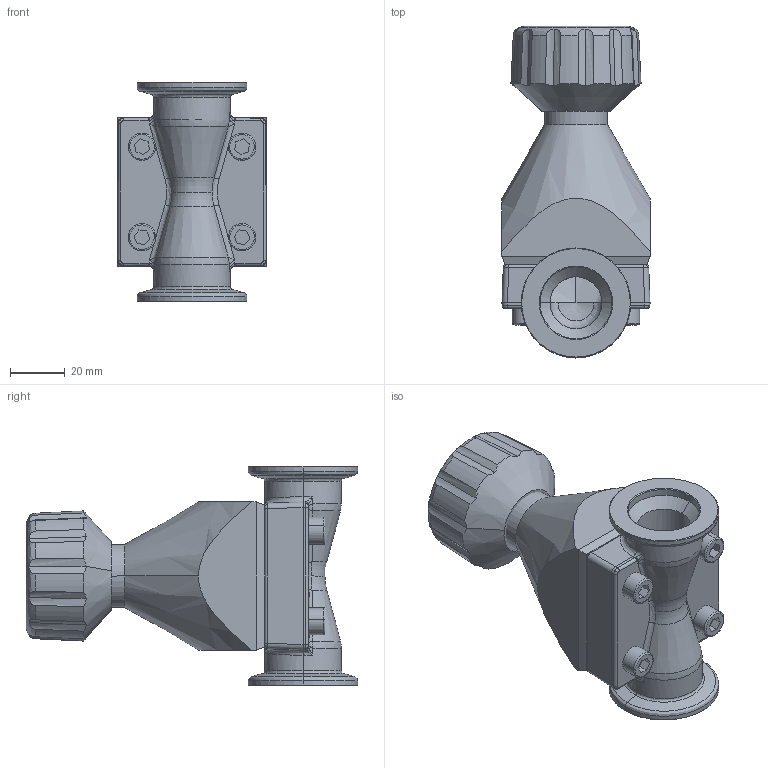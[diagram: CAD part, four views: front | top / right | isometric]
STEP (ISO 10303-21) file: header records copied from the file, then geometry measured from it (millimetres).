
FILE_DESCRIPTION(/* description */ (''),/* implementation_level */ '2;1');
FILE_NAME(/* name */ '1272116692_203.stp',/* time_stamp */ '2019-11-21T14:10:44+01:00',/* author */ (''),/* organization */ (''),/* preprocessor_version */ 'ST-DEVELOPER v16',/* originating_system */ 'SIEMENS PLM Software NX 11.0',/* authorisation */ '');
FILE_SCHEMA (('AP203_CONFIGURATION_CONTROLLED_3D_DESIGN_OF_MECHANICAL_PARTS_AND_ASSEMBLIES_MIM_LF { 1 0 10303 403 2 1 2}'));
Length unit declared in the file: millimetre
Products named in the file (7): 265439.1; 265430.1; 265436.1; 265442.1; 265427.1; 265433.1; 768149
Assembly tree (9 placements, depth 2):
  768149
    265433.1  x4
    265427.1
    265442.1
    265436.1
    265430.1
    265439.1
Bounding box: 54 x 121 x 80 mm (x, y, z)
Volume: 202832 mm3; surface area: 45857.4 mm2
Topology: 9 solids, 9 shells, 346 faces, 814 edges, 475 vertices
Faces by surface type: revolution 96, plane 82, bspline 80, cylinder 52, cone 36
Entity records: 14211 total; most frequent: CARTESIAN_POINT 7521, ORIENTED_EDGE 1356, DIRECTION 980, EDGE_CURVE 678, VERTEX_POINT 403, AXIS2_PLACEMENT_3D 348, EDGE_LOOP 311, ADVANCED_FACE 292
